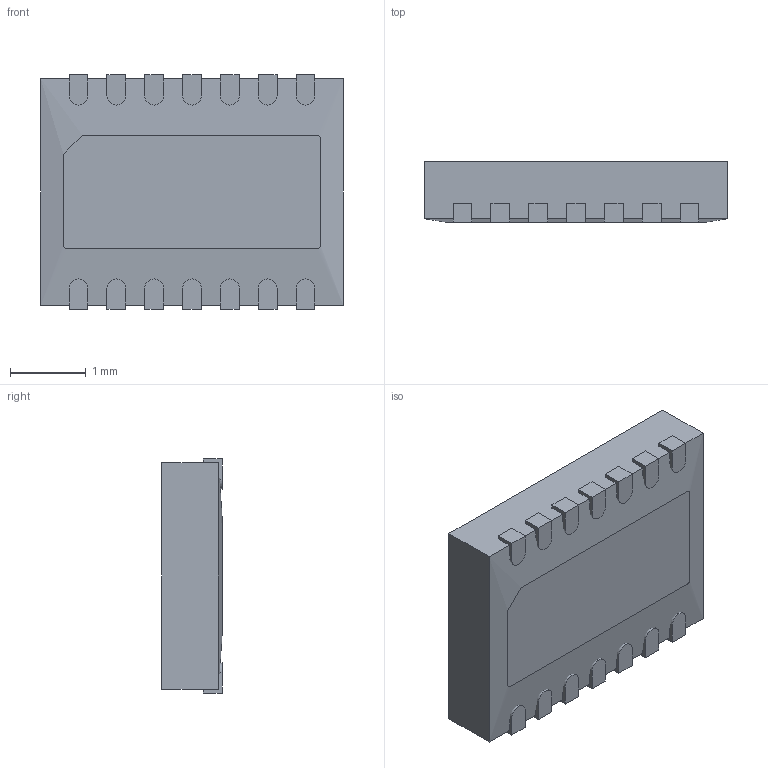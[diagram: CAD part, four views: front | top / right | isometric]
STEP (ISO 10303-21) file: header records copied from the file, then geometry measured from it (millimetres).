
FILE_DESCRIPTION (( 'STEP AP214' ), '1' );
FILE_NAME ( 'SON50P400X300X80-15T150X340.STEP', '2014-04-11T12:31:21', ( '' ), ( '' ), 'FPX Expert 2013', 'PCB Libraries', '' );
FILE_SCHEMA (( 'AUTOMOTIVE_DESIGN' ));
Length unit declared in the file: millimetre
Products named in the file (1): SON50P400X300X80-15T150X340
Bounding box: 4 x 0.8 x 3.1 mm (x, y, z)
Volume: 9.2 mm3; surface area: 53.6 mm2
Topology: 16 solids, 16 shells, 154 faces, 360 edges, 240 vertices
Faces by surface type: plane 118, cylinder 34, torus 2
Entity records: 4979 total; most frequent: CARTESIAN_POINT 755, DIRECTION 744, ORIENTED_EDGE 720, EDGE_CURVE 360, VECTOR 286, LINE 286, VERTEX_POINT 240, AXIS2_PLACEMENT_3D 229
